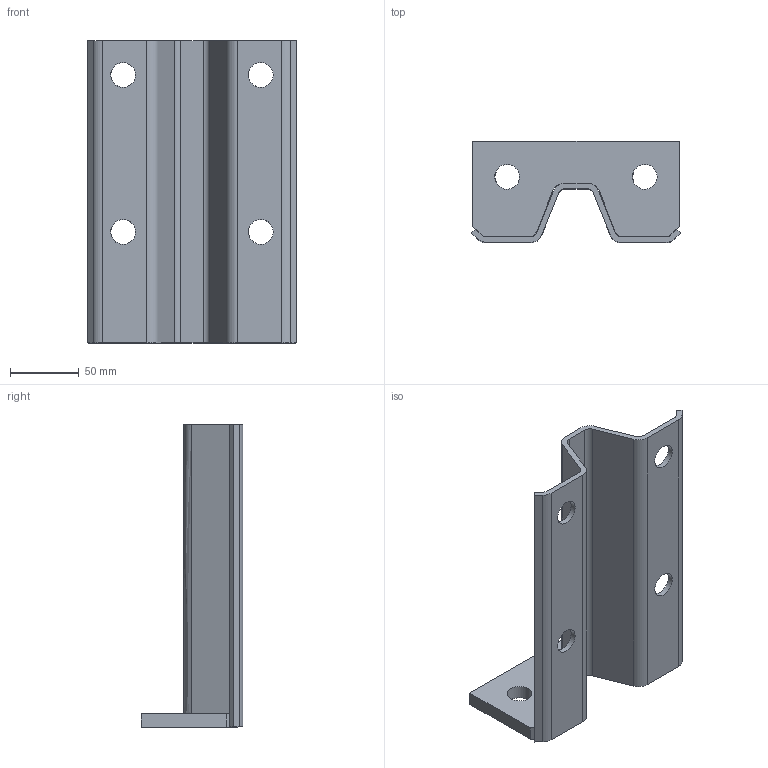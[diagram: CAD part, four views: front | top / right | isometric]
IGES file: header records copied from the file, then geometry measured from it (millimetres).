
Global section: file name: B265W100; native system: Autodesk RealDWG; preprocessor: Autodesk Translation Framework DWG producer (atf_dwg_producer); organization: unknown; date: 20230703.110941; units: centimetre
Bounding box: 151.72 x 74 x 220 mm (x, y, z)
Volume: 254820.8 mm3; surface area: 111714.8 mm2
Topology: 1 solids, 1 shells, 54 faces, 164 edges, 108 vertices
Faces by surface type: bspline 54
